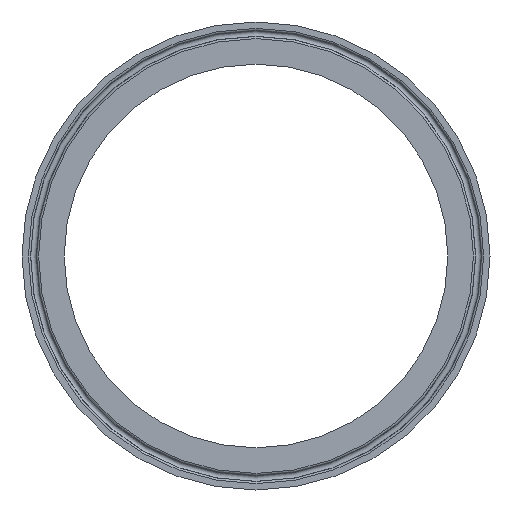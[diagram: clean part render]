
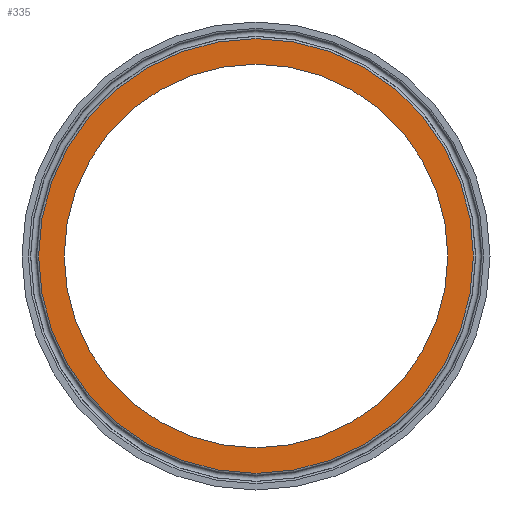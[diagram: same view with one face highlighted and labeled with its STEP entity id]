
A CAD part, front view. The second image highlights one B-rep face of the part: STEP entity #335.
In plain terms, the highlighted planar face has unit normal (0, -1, 0).
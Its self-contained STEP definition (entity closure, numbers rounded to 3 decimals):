
#301=CARTESIAN_POINT('',(84.997,0.,0.0));
#302=VERTEX_POINT('',#301);
#303=CARTESIAN_POINT('',(0.0,0.,0.0));
#304=DIRECTION('',(0.0,-1.0,0.0));
#305=DIRECTION('',(1.0,0.0,0.0));
#306=AXIS2_PLACEMENT_3D('',#303,#304,#305);
#307=CIRCLE('',#306,84.997);
#308=EDGE_CURVE('',#302,#302,#307,.T.);
#316=CARTESIAN_POINT('',(79.999,0.,0.0));
#317=DIRECTION('',(0.0,-1.0,0.0));
#318=DIRECTION('',(0.0,0.0,-1.0));
#319=AXIS2_PLACEMENT_3D('',#316,#317,#318);
#320=PLANE('',#319);
#321=ORIENTED_EDGE('',*,*,#308,.T.);
#322=EDGE_LOOP('',(#321));
#323=FACE_OUTER_BOUND('',#322,.T.);
#324=CARTESIAN_POINT('',(75.,0.,0.0));
#325=VERTEX_POINT('',#324);
#326=CARTESIAN_POINT('',(0.0,0.,0.0));
#327=DIRECTION('',(0.0,-1.0,0.0));
#328=DIRECTION('',(1.0,0.0,0.0));
#329=AXIS2_PLACEMENT_3D('',#326,#327,#328);
#330=CIRCLE('',#329,75.);
#331=EDGE_CURVE('',#325,#325,#330,.T.);
#332=ORIENTED_EDGE('',*,*,#331,.F.);
#333=EDGE_LOOP('',(#332));
#334=FACE_BOUND('',#333,.T.);
#335=ADVANCED_FACE('',(#323,#334),#320,.T.);
